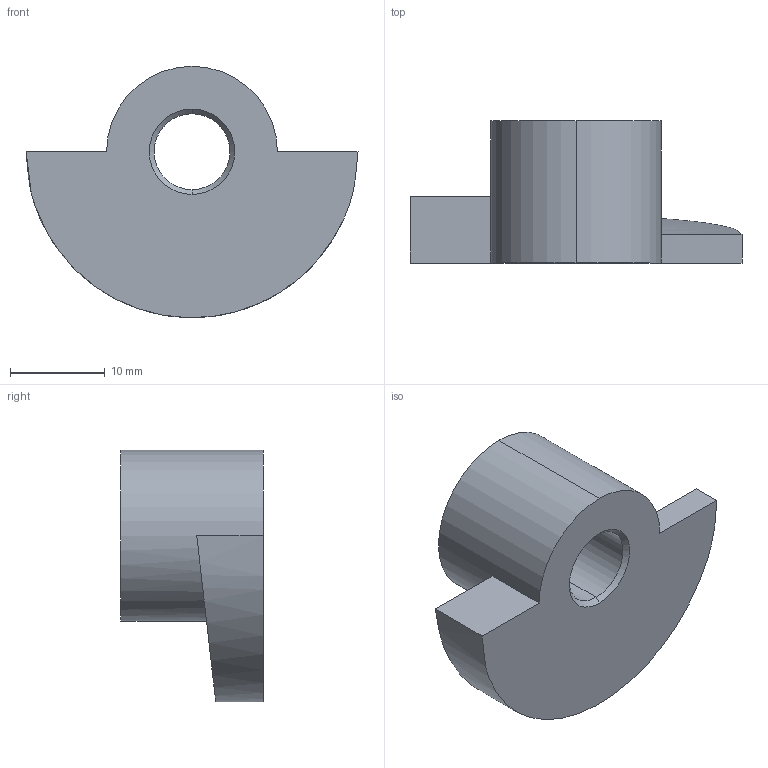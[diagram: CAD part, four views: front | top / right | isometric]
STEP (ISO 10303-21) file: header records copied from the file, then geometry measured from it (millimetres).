
FILE_DESCRIPTION (( 'STEP AP203' ), '1' );
FILE_NAME ('Wiberger-gn218_r_35x8.step', '2014-08-05T06:37:40', ( 'Magnus' ), ( 'Microsoft' ), 'SwSTEP 2.0', 'SolidWorks 2014', '' );
FILE_SCHEMA (( 'CONFIG_CONTROL_DESIGN' ));
Length unit declared in the file: millimetre
Products named in the file (1): Wiberger-gn218_r_35x8
Bounding box: 35 x 15 x 26.49 mm (x, y, z)
Volume: 4823.6 mm3; surface area: 2547 mm2
Topology: 1 solids, 1 shells, 14 faces, 32 edges, 20 vertices
Faces by surface type: cone 4, cylinder 4, plane 4, bspline 2
Entity records: 607 total; most frequent: CARTESIAN_POINT 211, DIRECTION 66, ORIENTED_EDGE 64, EDGE_CURVE 32, AXIS2_PLACEMENT_3D 25, VERTEX_POINT 20, VECTOR 16, EDGE_LOOP 16
